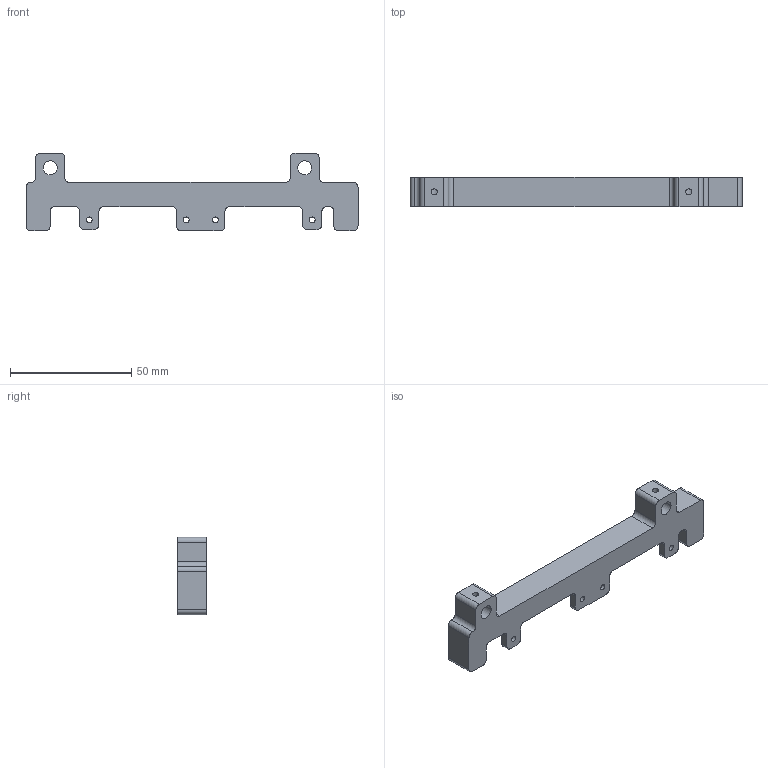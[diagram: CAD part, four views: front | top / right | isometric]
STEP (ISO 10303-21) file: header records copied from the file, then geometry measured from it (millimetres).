
FILE_DESCRIPTION (( 'STEP AP214' ), '1' );
FILE_NAME ('TR-100 Top Bracket.STEP', '2018-06-28T19:15:14', ( '' ), ( '' ), 'SwSTEP 2.0', 'SolidWorks 2017', '' );
FILE_SCHEMA (( 'AUTOMOTIVE_DESIGN' ));
Length unit declared in the file: millimetre
Products named in the file (1): TR-100 Top Bracket
Bounding box: 137 x 12.11 x 32 mm (x, y, z)
Volume: 22722.9 mm3; surface area: 9563 mm2
Topology: 1 solids, 1 shells, 82 faces, 234 edges, 156 vertices
Faces by surface type: cylinder 51, plane 31
Entity records: 2940 total; most frequent: CARTESIAN_POINT 657, DIRECTION 482, ORIENTED_EDGE 468, EDGE_CURVE 234, AXIS2_PLACEMENT_3D 175, VERTEX_POINT 156, LINE 132, VECTOR 132
